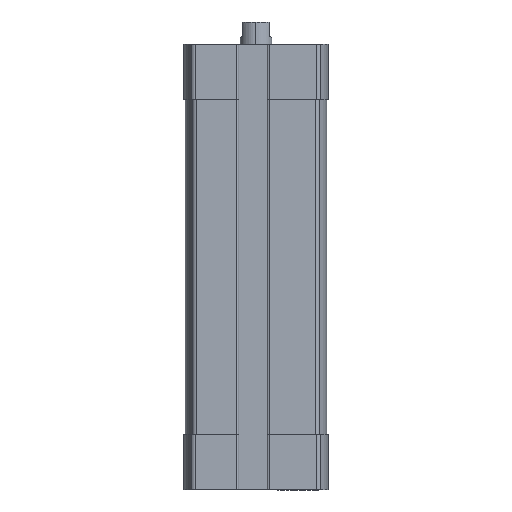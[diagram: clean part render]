
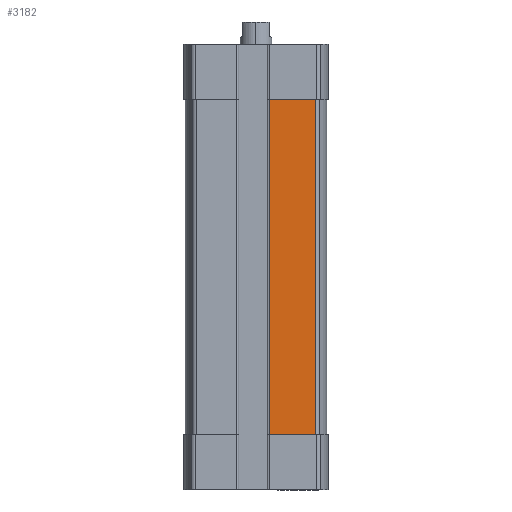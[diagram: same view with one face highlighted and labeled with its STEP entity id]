
A CAD part, left-side view. The second image highlights one B-rep face of the part: STEP entity #3182.
In plain terms, the highlighted planar face has unit normal (-1, 0, 0).
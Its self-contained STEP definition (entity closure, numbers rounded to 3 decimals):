
#717 = EDGE_CURVE ( 'NONE', #11148, #6549, #6522, .T. ) ;
#1607 = EDGE_CURVE ( 'NONE', #6549, #7059, #7820, .T. ) ;
#2001 = ORIENTED_EDGE ( 'NONE', *, *, #1607, .T. ) ;
#2641 = ORIENTED_EDGE ( 'NONE', *, *, #717, .T. ) ;
#2656 = EDGE_CURVE ( 'NONE', #7059, #3345, #6406, .T. ) ;
#3182 = ADVANCED_FACE ( 'NONE', ( #9865 ), #8908, .T. ) ;
#3345 = VERTEX_POINT ( 'NONE', #11050 ) ;
#3368 = VECTOR ( 'NONE', #5117, 1000. ) ;
#3931 = ORIENTED_EDGE ( 'NONE', *, *, #4729, .T. ) ;
#4088 = CARTESIAN_POINT ( 'NONE',  ( -13.5, -11.329, -74.5 ) ) ;
#4151 = VECTOR ( 'NONE', #11095, 1000. ) ;
#4221 = CARTESIAN_POINT ( 'NONE',  ( -13.5, 0., -10.5 ) ) ;
#4729 = EDGE_CURVE ( 'NONE', #3345, #11148, #10465, .T. ) ;
#4761 = EDGE_LOOP ( 'NONE', ( #2001, #9963, #3931, #2641 ) ) ;
#5117 = DIRECTION ( 'NONE',  ( 0., 1., 0. ) ) ;
#5120 = CARTESIAN_POINT ( 'NONE',  ( -13.5, -2.5, -74.5 ) ) ;
#5158 = CARTESIAN_POINT ( 'NONE',  ( -13.5, -11.329, -74.5 ) ) ;
#5189 = VECTOR ( 'NONE', #9806, 1000. ) ;
#5451 = DIRECTION ( 'NONE',  ( 0., 0., 1. ) ) ;
#5686 = CARTESIAN_POINT ( 'NONE',  ( -13.5, -2.5, -74.5 ) ) ;
#6406 = LINE ( 'NONE', #5158, #10894 ) ;
#6522 = LINE ( 'NONE', #5686, #4151 ) ;
#6549 = VERTEX_POINT ( 'NONE', #5120 ) ;
#7059 = VERTEX_POINT ( 'NONE', #4088 ) ;
#7331 = AXIS2_PLACEMENT_3D ( 'NONE', #8951, #8242, #5451 ) ;
#7820 = LINE ( 'NONE', #11562, #5189 ) ;
#8242 = DIRECTION ( 'NONE',  ( -1., 0., 0. ) ) ;
#8699 = DIRECTION ( 'NONE',  ( 0., 0., 1. ) ) ;
#8799 = CARTESIAN_POINT ( 'NONE',  ( -13.5, -2.5, -10.5 ) ) ;
#8908 = PLANE ( 'NONE',  #7331 ) ;
#8951 = CARTESIAN_POINT ( 'NONE',  ( -13.5, -2.5, -74.5 ) ) ;
#9806 = DIRECTION ( 'NONE',  ( 0., -1., 0. ) ) ;
#9865 = FACE_OUTER_BOUND ( 'NONE', #4761, .T. ) ;
#9963 = ORIENTED_EDGE ( 'NONE', *, *, #2656, .T. ) ;
#10465 = LINE ( 'NONE', #4221, #3368 ) ;
#10894 = VECTOR ( 'NONE', #8699, 1000. ) ;
#11050 = CARTESIAN_POINT ( 'NONE',  ( -13.5, -11.329, -10.5 ) ) ;
#11095 = DIRECTION ( 'NONE',  ( 0., 0., -1. ) ) ;
#11148 = VERTEX_POINT ( 'NONE', #8799 ) ;
#11562 = CARTESIAN_POINT ( 'NONE',  ( -13.5, -2.5, -74.5 ) ) ;
